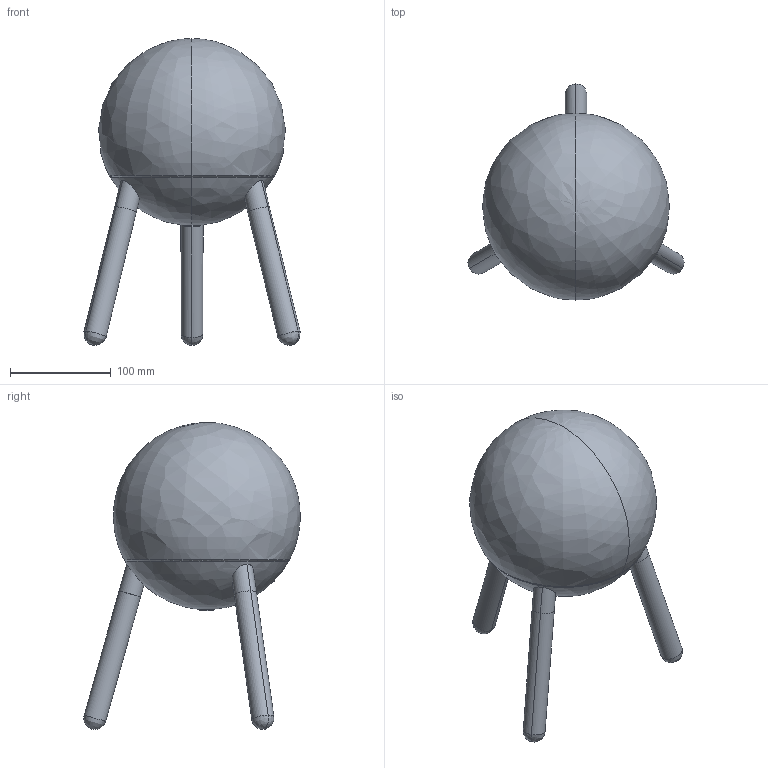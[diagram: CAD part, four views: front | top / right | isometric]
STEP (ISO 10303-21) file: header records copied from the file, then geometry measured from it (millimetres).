
FILE_DESCRIPTION(/* description */ (''),/* implementation_level */ '2;1');
FILE_NAME(/* name */ 'C:\Users\FrancoSartori\Documents\FARO\01_En Proceso\00_MINE\03_Publicación\28212.stp',/* time_stamp */ '2021-03-24T11:06:55+01:00',/* author */ ('FrancoSartori'),/* organization */ (''),/* preprocessor_version */ 'ST-DEVELOPER v18',/* originating_system */ 'AutoCAD Mechanical',/* authorisation */ '');
FILE_SCHEMA (('AUTOMOTIVE_DESIGN { 1 0 10303 214 3 1 1 }'));
Length unit declared in the file: millimetre
Products named in the file (2): Product; MINE_T - LAMP-528819-_3D_
Assembly tree (1 placements, depth 2):
  Product
    MINE_T - LAMP-528819-_3D_
Bounding box: 213.98 x 214.29 x 303.85 mm (x, y, z)
Volume: 575991.4 mm3; surface area: 283213.5 mm2
Topology: 5 solids, 5 shells, 82 faces, 161 edges, 81 vertices
Faces by surface type: plane 32, cylinder 28, bspline 14, torus 8
Entity records: 6338 total; most frequent: CARTESIAN_POINT 4836, ORIENTED_EDGE 302, DIRECTION 268, EDGE_CURVE 151, AXIS2_PLACEMENT_3D 108, EDGE_LOOP 84, FACE_OUTER_BOUND 82, ADVANCED_FACE 82
